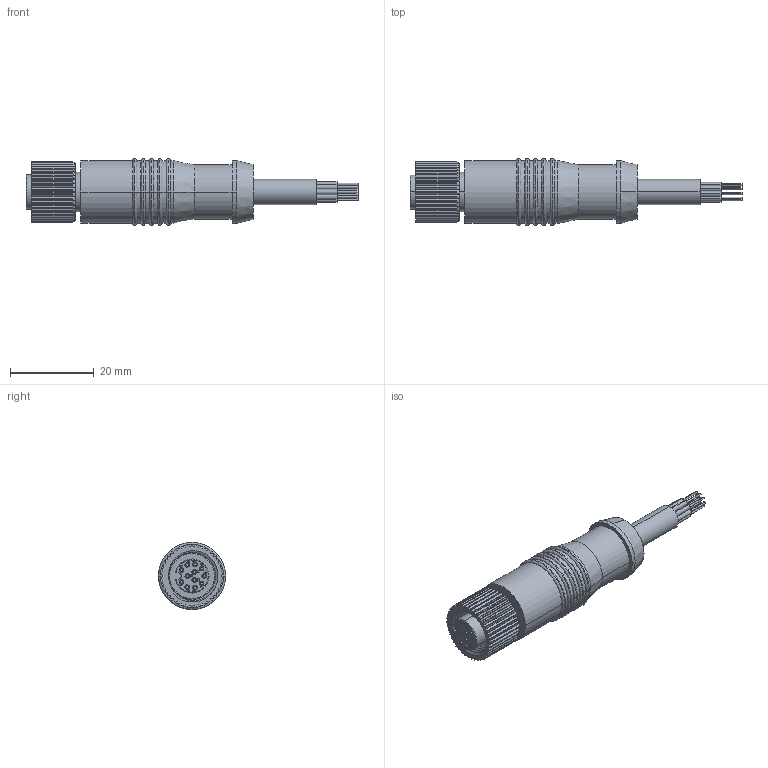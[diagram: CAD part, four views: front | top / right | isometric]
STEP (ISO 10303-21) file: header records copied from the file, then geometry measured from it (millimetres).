
FILE_DESCRIPTION (( 'STEP AP214' ), '1' );
FILE_NAME ('MI-F0.STEP', '2023-06-22T08:18:13', ( '' ), ( '' ), 'SwSTEP 2.0', 'SolidWorks 2021', '' );
FILE_SCHEMA (( 'AUTOMOTIVE_DESIGN' ));
Length unit declared in the file: millimetre
Products named in the file (4): M12 8 Pos Male Mold; M12 12 Pos Female Connector; MI-F0; MI_Cable_12
Assembly tree (3 placements, depth 2):
  MI-F0
    M12 12 Pos Female Connector
    M12 8 Pos Male Mold
    MI_Cable_12
Bounding box: 79.08 x 16 x 16 mm (x, y, z)
Volume: 8564.1 mm3; surface area: 4973.9 mm2
Topology: 27 solids, 27 shells, 802 faces, 1993 edges, 1308 vertices
Faces by surface type: cylinder 376, plane 293, bspline 103, cone 30
Entity records: 35081 total; most frequent: CARTESIAN_POINT 12381, ORIENTED_EDGE 3986, DIRECTION 3608, EDGE_CURVE 1993, AXIS2_PLACEMENT_3D 1351, VERTEX_POINT 1308, LINE 906, VECTOR 906
